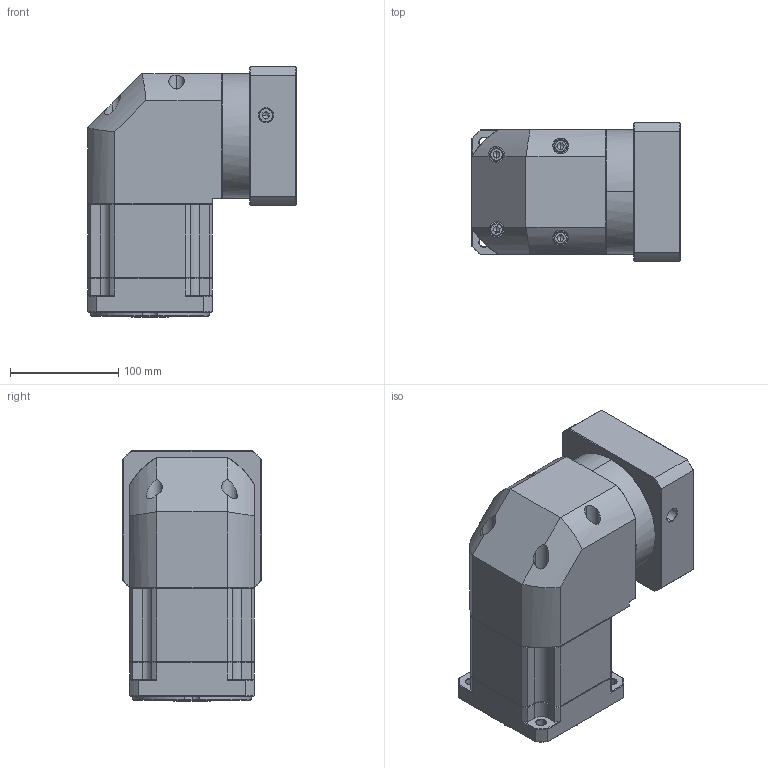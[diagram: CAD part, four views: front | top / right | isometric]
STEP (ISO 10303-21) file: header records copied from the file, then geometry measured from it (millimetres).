
FILE_DESCRIPTION (( 'STEP AP214' ), '1' );
FILE_NAME ('ZBR115A-K25-L2-P2-24-110-145-M8.step', '2023-08-26T12:44:42', ( '' ), ( '' ), 'SwSTEP 2.0', 'SolidWorks 2016', '' );
FILE_SCHEMA (( 'AUTOMOTIVE_DESIGN' ));
Length unit declared in the file: millimetre
Products named in the file (1): ZBR115A-K25-L2-P2-24-110-145-M8
Bounding box: 192.4 x 128 x 231.5 mm (x, y, z)
Volume: 3324449.4 mm3; surface area: 263838.4 mm2
Topology: 6 solids, 6 shells, 2324 faces, 6096 edges, 3876 vertices
Faces by surface type: plane 1132, bspline 415, cylinder 406, cone 363, torus 8
Entity records: 122679 total; most frequent: CARTESIAN_POINT 43235, ORIENTED_EDGE 12136, DIRECTION 9611, EDGE_CURVE 6068, VECTOR 3939, LINE 3939, VERTEX_POINT 3876, AXIS2_PLACEMENT_3D 2836
